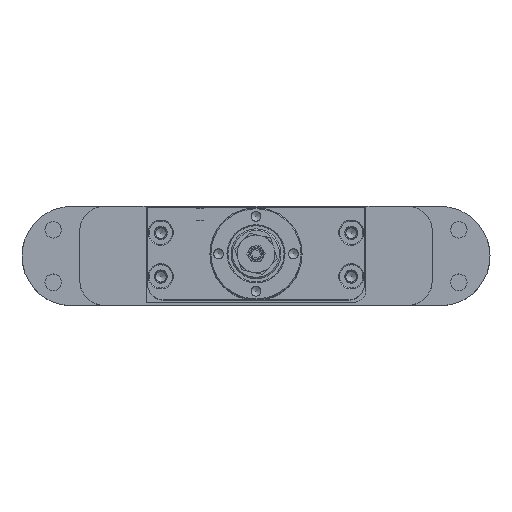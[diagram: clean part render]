
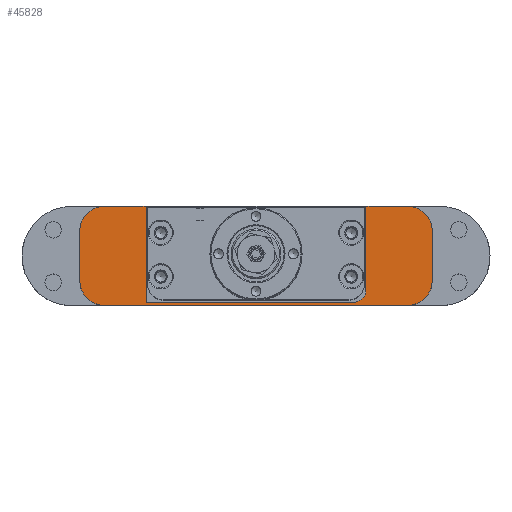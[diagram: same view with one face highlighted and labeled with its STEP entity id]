
A CAD part, top view. The second image highlights one B-rep face of the part: STEP entity #45828.
In plain terms, the highlighted planar face has unit normal (0, 0, 1) as drawn and (0, 0, -1) by its records, which use the part's own axes.
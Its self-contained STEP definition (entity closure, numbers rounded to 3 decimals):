
#26141=CARTESIAN_POINT('',(-48.5,-16.05,-53.0));
#26142=VERTEX_POINT('',#26141);
#26149=CARTESIAN_POINT('',(48.5,-16.05,-53.0));
#26150=VERTEX_POINT('',#26149);
#26151=CARTESIAN_POINT('',(-48.5,-16.05,-53.0));
#26152=DIRECTION('',(1.0,0.0,0.0));
#26153=VECTOR('',#26152,97.0);
#26154=LINE('',#26151,#26153);
#26155=EDGE_CURVE('',#26142,#26150,#26154,.T.);
#44941=CARTESIAN_POINT('',(-31.25,-15.05,-53.0));
#44942=VERTEX_POINT('',#44941);
#44949=CARTESIAN_POINT('',(-35.25,-11.05,-53.0));
#44950=VERTEX_POINT('',#44949);
#44951=CARTESIAN_POINT('',(-31.25,-11.05,-53.0));
#44952=DIRECTION('',(0.0,0.0,-1.));
#44953=DIRECTION('',(-0.707,-0.707,0.0));
#44954=AXIS2_PLACEMENT_3D('',#44951,#44952,#44953);
#44955=CIRCLE('',#44954,4.0);
#44956=EDGE_CURVE('',#44942,#44950,#44955,.T.);
#45012=CARTESIAN_POINT('',(-35.25,15.75,-53.0));
#45013=VERTEX_POINT('',#45012);
#45014=CARTESIAN_POINT('',(-35.25,-11.05,-53.0));
#45015=DIRECTION('',(0.0,1.0,0.0));
#45016=VECTOR('',#45015,26.8);
#45017=LINE('',#45014,#45016);
#45018=EDGE_CURVE('',#44950,#45013,#45017,.T.);
#45310=CARTESIAN_POINT('',(35.25,15.75,-53.0));
#45311=VERTEX_POINT('',#45310);
#45318=CARTESIAN_POINT('',(35.25,-15.05,-53.0));
#45319=VERTEX_POINT('',#45318);
#45320=CARTESIAN_POINT('',(35.25,-15.05,-53.0));
#45321=DIRECTION('',(0.0,1.0,0.0));
#45322=VECTOR('',#45321,30.8);
#45323=LINE('',#45320,#45322);
#45324=EDGE_CURVE('',#45319,#45311,#45323,.T.);
#45743=CARTESIAN_POINT('',(-31.25,-15.05,-53.0));
#45744=DIRECTION('',(1.0,0.0,0.0));
#45745=VECTOR('',#45744,66.5);
#45746=LINE('',#45743,#45745);
#45747=EDGE_CURVE('',#44942,#45319,#45746,.T.);
#45752=CARTESIAN_POINT('',(0.,-6.39,-53.0));
#45753=DIRECTION('',(0.0,0.0,1.0));
#45754=DIRECTION('',(1.0,0.0,0.0));
#45755=AXIS2_PLACEMENT_3D('',#45752,#45753,#45754);
#45756=PLANE('',#45755);
#45757=ORIENTED_EDGE('',*,*,#45747,.T.);
#45758=ORIENTED_EDGE('',*,*,#45324,.T.);
#45759=CARTESIAN_POINT('',(48.5,15.75,-53.0));
#45760=VERTEX_POINT('',#45759);
#45761=CARTESIAN_POINT('',(48.5,15.75,-53.0));
#45762=DIRECTION('',(-1.0,0.0,0.0));
#45763=VECTOR('',#45762,13.25);
#45764=LINE('',#45761,#45763);
#45765=EDGE_CURVE('',#45760,#45311,#45764,.T.);
#45766=ORIENTED_EDGE('',*,*,#45765,.F.);
#45767=CARTESIAN_POINT('',(56.5,7.75,-53.0));
#45768=VERTEX_POINT('',#45767);
#45769=CARTESIAN_POINT('',(48.5,7.75,-53.0));
#45770=DIRECTION('',(0.0,0.0,1.0));
#45771=DIRECTION('',(0.0,1.0,0.0));
#45772=AXIS2_PLACEMENT_3D('',#45769,#45770,#45771);
#45773=CIRCLE('',#45772,8.);
#45774=EDGE_CURVE('',#45768,#45760,#45773,.T.);
#45775=ORIENTED_EDGE('',*,*,#45774,.F.);
#45776=CARTESIAN_POINT('',(56.5,-8.05,-53.0));
#45777=VERTEX_POINT('',#45776);
#45778=CARTESIAN_POINT('',(56.5,-8.05,-53.0));
#45779=DIRECTION('',(0.0,1.0,0.0));
#45780=VECTOR('',#45779,15.8);
#45781=LINE('',#45778,#45780);
#45782=EDGE_CURVE('',#45777,#45768,#45781,.T.);
#45783=ORIENTED_EDGE('',*,*,#45782,.F.);
#45784=CARTESIAN_POINT('',(48.5,-8.05,-53.0));
#45785=DIRECTION('',(0.0,0.0,1.0));
#45786=DIRECTION('',(1.0,0.0,0.0));
#45787=AXIS2_PLACEMENT_3D('',#45784,#45785,#45786);
#45788=CIRCLE('',#45787,8.);
#45789=EDGE_CURVE('',#26150,#45777,#45788,.T.);
#45790=ORIENTED_EDGE('',*,*,#45789,.F.);
#45791=ORIENTED_EDGE('',*,*,#26155,.F.);
#45792=CARTESIAN_POINT('',(-56.5,-8.05,-53.0));
#45793=VERTEX_POINT('',#45792);
#45794=CARTESIAN_POINT('',(-48.5,-8.05,-53.0));
#45795=DIRECTION('',(0.0,0.0,1.0));
#45796=DIRECTION('',(0.0,-1.0,0.0));
#45797=AXIS2_PLACEMENT_3D('',#45794,#45795,#45796);
#45798=CIRCLE('',#45797,8.0);
#45799=EDGE_CURVE('',#45793,#26142,#45798,.T.);
#45800=ORIENTED_EDGE('',*,*,#45799,.F.);
#45801=CARTESIAN_POINT('',(-56.5,7.75,-53.0));
#45802=VERTEX_POINT('',#45801);
#45803=CARTESIAN_POINT('',(-56.5,7.75,-53.0));
#45804=DIRECTION('',(0.0,-1.0,0.0));
#45805=VECTOR('',#45804,15.8);
#45806=LINE('',#45803,#45805);
#45807=EDGE_CURVE('',#45802,#45793,#45806,.T.);
#45808=ORIENTED_EDGE('',*,*,#45807,.F.);
#45809=CARTESIAN_POINT('',(-48.5,15.75,-53.0));
#45810=VERTEX_POINT('',#45809);
#45811=CARTESIAN_POINT('',(-48.5,7.75,-53.0));
#45812=DIRECTION('',(0.0,0.0,1.0));
#45813=DIRECTION('',(-1.0,0.0,0.0));
#45814=AXIS2_PLACEMENT_3D('',#45811,#45812,#45813);
#45815=CIRCLE('',#45814,8.);
#45816=EDGE_CURVE('',#45810,#45802,#45815,.T.);
#45817=ORIENTED_EDGE('',*,*,#45816,.F.);
#45818=CARTESIAN_POINT('',(-35.25,15.75,-53.0));
#45819=DIRECTION('',(-1.0,0.0,0.0));
#45820=VECTOR('',#45819,13.25);
#45821=LINE('',#45818,#45820);
#45822=EDGE_CURVE('',#45013,#45810,#45821,.T.);
#45823=ORIENTED_EDGE('',*,*,#45822,.F.);
#45824=ORIENTED_EDGE('',*,*,#45018,.F.);
#45825=ORIENTED_EDGE('',*,*,#44956,.F.);
#45826=EDGE_LOOP('',(#45757,#45758,#45766,#45775,#45783,#45790,#45791,#45800,#45808,#45817,#45823,#45824,#45825));
#45827=FACE_OUTER_BOUND('',#45826,.T.);
#45828=ADVANCED_FACE('',(#45827),#45756,.F.);
